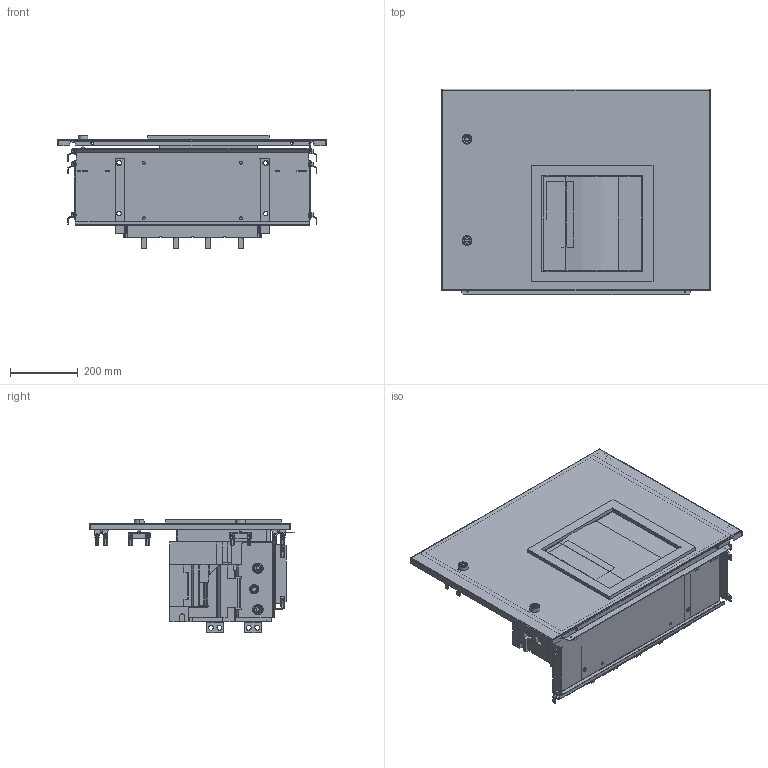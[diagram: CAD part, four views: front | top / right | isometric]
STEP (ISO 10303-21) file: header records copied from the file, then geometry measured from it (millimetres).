
FILE_DESCRIPTION(('CAx-IF Rec.Pracs.---Model Styling and Organization---1.2---2011-12-15','CAx-IF Rec.Pracs.---Geometric and Assembly Validation Properties---4.1---2014-06-16','CAx-IF Rec.Pracs.---PMI Polyline Presentation---2.0---2013-05-24'),'2;1');
FILE_NAME('R5PKEB7V811224P.stp','2021-07-29T02:59:15+03:00',(''),(''),'STEP Interface 4.4 by CT CoreTechnologie','3D_Evolution4.4 by CT CoreTechnologie','');
FILE_SCHEMA(('AUTOMOTIVE_DESIGN { 1 0 10303 214 1 1 1 1 }'));
Length unit declared in the file: millimetre
Products named in the file (1): R5PKEB7V811224P
Bounding box: 794 x 607.5 x 336.5 mm (x, y, z)
Surface area: 4123948 mm2 (no closed solid volume)
Topology: 0 solids, 80 shells, 4598 faces, 12682 edges, 8232 vertices
Faces by surface type: plane 2604, cylinder 1457, bspline 537
Entity records: 159922 total; most frequent: CARTESIAN_POINT 41722, ORIENTED_EDGE 25232, DIRECTION 23946, EDGE_CURVE 12618, VECTOR 8716, LINE 8716, VERTEX_POINT 8237, AXIS2_PLACEMENT_3D 7615
